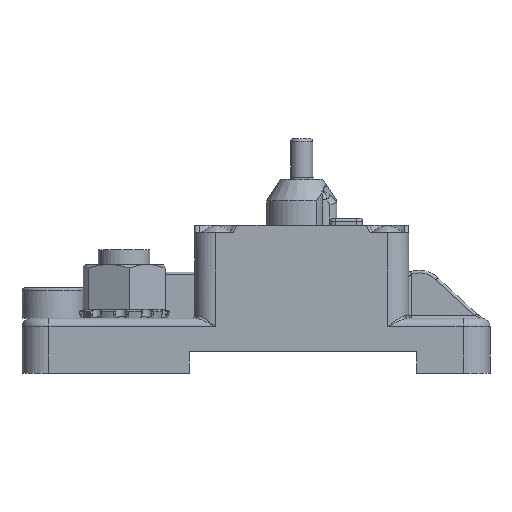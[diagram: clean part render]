
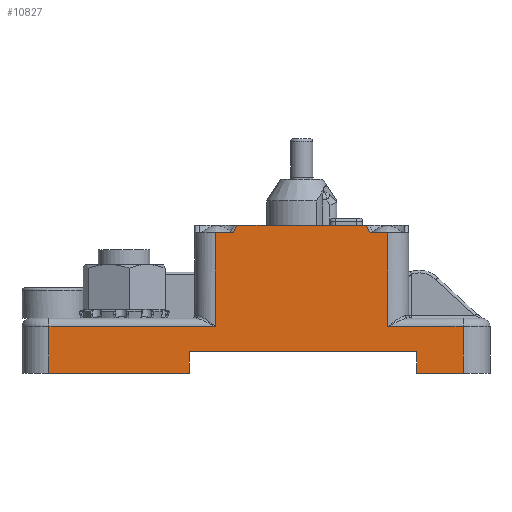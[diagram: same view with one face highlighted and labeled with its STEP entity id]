
A CAD part, front view. The second image highlights one B-rep face of the part: STEP entity #10827.
In plain terms, the highlighted planar face has unit normal (0, -1, 0).
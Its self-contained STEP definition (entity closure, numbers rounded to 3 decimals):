
#598=B_SPLINE_CURVE_WITH_KNOTS('',3,(#19092,#19093,#19094,#19095),
 .UNSPECIFIED.,.F.,.F.,(4,4),(-0.132,0.019),
 .UNSPECIFIED.);
#599=B_SPLINE_CURVE_WITH_KNOTS('',3,(#19125,#19126,#19127,#19128),
 .UNSPECIFIED.,.F.,.F.,(4,4),(-0.17,-0.019),
 .UNSPECIFIED.);
#1136=LINE('',#17196,#1828);
#1222=LINE('',#18099,#1914);
#1223=LINE('',#18104,#1915);
#1227=LINE('',#18119,#1919);
#1232=LINE('',#18132,#1924);
#1233=LINE('',#18134,#1925);
#1266=LINE('',#18855,#1958);
#1279=LINE('',#19834,#1971);
#1281=LINE('',#19841,#1973);
#1282=LINE('',#19844,#1974);
#1283=LINE('',#19846,#1975);
#1284=LINE('',#19847,#1976);
#1285=LINE('',#19848,#1977);
#1286=LINE('',#19849,#1978);
#1828=VECTOR('',#12895,10.);
#1914=VECTOR('',#13237,10.);
#1915=VECTOR('',#13242,10.);
#1919=VECTOR('',#13254,10.);
#1924=VECTOR('',#13265,10.);
#1925=VECTOR('',#13268,10.);
#1958=VECTOR('',#13447,10.);
#1971=VECTOR('',#13482,10.);
#1973=VECTOR('',#13490,10.);
#1974=VECTOR('',#13495,10.);
#1975=VECTOR('',#13496,10.);
#1976=VECTOR('',#13497,10.);
#1977=VECTOR('',#13498,10.);
#1978=VECTOR('',#13499,10.);
#2705=FACE_OUTER_BOUND('',#3378,.T.);
#3378=EDGE_LOOP('',(#8490,#8491,#8492,#8493,#8494,#8495,#8496,#8497,#8498,
#8499,#8500,#8501,#8502,#8503,#8504,#8505));
#4549=VERTEX_POINT('',#17194);
#4550=VERTEX_POINT('',#17195);
#4661=VERTEX_POINT('',#18093);
#4663=VERTEX_POINT('',#18097);
#4665=VERTEX_POINT('',#18102);
#4670=VERTEX_POINT('',#18115);
#4672=VERTEX_POINT('',#18118);
#4674=VERTEX_POINT('',#18124);
#4733=VERTEX_POINT('',#18726);
#4736=VERTEX_POINT('',#18781);
#4739=VERTEX_POINT('',#18854);
#4743=VERTEX_POINT('',#19030);
#4744=VERTEX_POINT('',#19124);
#4760=VERTEX_POINT('',#19832);
#4762=VERTEX_POINT('',#19840);
#4763=VERTEX_POINT('',#19845);
#5760=EDGE_CURVE('',#4549,#4550,#1136,.T.);
#5933=EDGE_CURVE('',#4661,#4663,#1222,.T.);
#5935=EDGE_CURVE('',#4665,#4663,#1223,.T.);
#5942=EDGE_CURVE('',#4670,#4672,#1227,.T.);
#5949=EDGE_CURVE('',#4672,#4674,#1232,.T.);
#5950=EDGE_CURVE('',#4670,#4661,#1233,.T.);
#6052=EDGE_CURVE('',#4736,#4739,#1266,.T.);
#6060=EDGE_CURVE('',#4743,#4550,#598,.T.);
#6061=EDGE_CURVE('',#4549,#4744,#599,.T.);
#6094=EDGE_CURVE('',#4743,#4760,#1279,.T.);
#6097=EDGE_CURVE('',#4762,#4744,#1281,.T.);
#6099=EDGE_CURVE('',#4733,#4760,#1282,.T.);
#6100=EDGE_CURVE('',#4763,#4733,#1283,.T.);
#6101=EDGE_CURVE('',#4763,#4674,#1284,.T.);
#6102=EDGE_CURVE('',#4739,#4665,#1285,.T.);
#6103=EDGE_CURVE('',#4762,#4736,#1286,.T.);
#8490=ORIENTED_EDGE('',*,*,#6094,.T.);
#8491=ORIENTED_EDGE('',*,*,#6099,.F.);
#8492=ORIENTED_EDGE('',*,*,#6100,.F.);
#8493=ORIENTED_EDGE('',*,*,#6101,.T.);
#8494=ORIENTED_EDGE('',*,*,#5949,.F.);
#8495=ORIENTED_EDGE('',*,*,#5942,.F.);
#8496=ORIENTED_EDGE('',*,*,#5950,.T.);
#8497=ORIENTED_EDGE('',*,*,#5933,.T.);
#8498=ORIENTED_EDGE('',*,*,#5935,.F.);
#8499=ORIENTED_EDGE('',*,*,#6102,.F.);
#8500=ORIENTED_EDGE('',*,*,#6052,.F.);
#8501=ORIENTED_EDGE('',*,*,#6103,.F.);
#8502=ORIENTED_EDGE('',*,*,#6097,.T.);
#8503=ORIENTED_EDGE('',*,*,#6061,.F.);
#8504=ORIENTED_EDGE('',*,*,#5760,.T.);
#8505=ORIENTED_EDGE('',*,*,#6060,.F.);
#10424=PLANE('',#11678);
#10827=ADVANCED_FACE('',(#2705),#10424,.T.);
#11678=AXIS2_PLACEMENT_3D('',#19843,#13493,#13494);
#12895=DIRECTION('',(-1.,0.,0.));
#13237=DIRECTION('',(0.,0.,-1.));
#13242=DIRECTION('',(-1.,0.,0.));
#13254=DIRECTION('',(0.,0.,-1.));
#13265=DIRECTION('',(-1.,0.,0.));
#13268=DIRECTION('',(1.,0.,0.));
#13447=DIRECTION('',(1.,0.,0.));
#13482=DIRECTION('',(-1.,0.,0.));
#13490=DIRECTION('',(-1.,0.,0.));
#13493=DIRECTION('center_axis',(0.,-1.,0.));
#13494=DIRECTION('ref_axis',(1.,0.,0.));
#13495=DIRECTION('',(0.,0.,1.));
#13496=DIRECTION('',(1.,0.,0.));
#13497=DIRECTION('',(0.,0.,-1.));
#13498=DIRECTION('',(0.,0.,-1.));
#13499=DIRECTION('',(0.,0.,-1.));
#17194=CARTESIAN_POINT('',(63.544,0.,23.299));
#17195=CARTESIAN_POINT('',(39.656,0.,23.299));
#17196=CARTESIAN_POINT('',(71.35,0.,23.299));
#18093=CARTESIAN_POINT('',(72.85,0.,0.));
#18097=CARTESIAN_POINT('',(72.85,0.,-4.));
#18099=CARTESIAN_POINT('',(72.85,0.,0.));
#18102=CARTESIAN_POINT('',(81.369,0.,-4.));
#18104=CARTESIAN_POINT('',(72.85,0.,-4.));
#18115=CARTESIAN_POINT('',(30.85,0.,0.));
#18118=CARTESIAN_POINT('',(30.85,0.,-4.));
#18119=CARTESIAN_POINT('',(30.85,0.,0.));
#18124=CARTESIAN_POINT('',(4.981,0.,-4.));
#18132=CARTESIAN_POINT('',(4.981,0.,-4.));
#18134=CARTESIAN_POINT('',(0.,0.,0.));
#18726=CARTESIAN_POINT('',(35.676,0.,4.65));
#18781=CARTESIAN_POINT('',(67.524,0.,4.65));
#18854=CARTESIAN_POINT('',(81.369,0.,4.65));
#18855=CARTESIAN_POINT('',(21.588,0.,4.65));
#19030=CARTESIAN_POINT('',(38.984,0.,21.949));
#19092=CARTESIAN_POINT('Ctrl Pts',(38.984,0.,
21.948));
#19093=CARTESIAN_POINT('Ctrl Pts',(39.217,0.,
22.394));
#19094=CARTESIAN_POINT('Ctrl Pts',(39.44,0.,
22.845));
#19095=CARTESIAN_POINT('Ctrl Pts',(39.656,0.,
23.299));
#19124=CARTESIAN_POINT('',(64.216,0.,21.949));
#19125=CARTESIAN_POINT('Ctrl Pts',(63.544,0.,
23.299));
#19126=CARTESIAN_POINT('Ctrl Pts',(63.76,0.,
22.845));
#19127=CARTESIAN_POINT('Ctrl Pts',(63.983,0.,
22.394));
#19128=CARTESIAN_POINT('Ctrl Pts',(64.216,0.,
21.948));
#19832=CARTESIAN_POINT('',(35.676,0.,21.949));
#19834=CARTESIAN_POINT('',(17.913,0.,21.949));
#19840=CARTESIAN_POINT('',(67.524,0.,21.949));
#19841=CARTESIAN_POINT('',(33.687,0.,21.949));
#19843=CARTESIAN_POINT('Origin',(0.,0.,0.));
#19844=CARTESIAN_POINT('',(35.676,0.,3.075));
#19845=CARTESIAN_POINT('',(4.981,0.,4.65));
#19846=CARTESIAN_POINT('',(21.588,0.,4.65));
#19847=CARTESIAN_POINT('',(4.981,0.,0.));
#19848=CARTESIAN_POINT('',(81.369,0.,0.));
#19849=CARTESIAN_POINT('',(67.524,0.,3.075));
